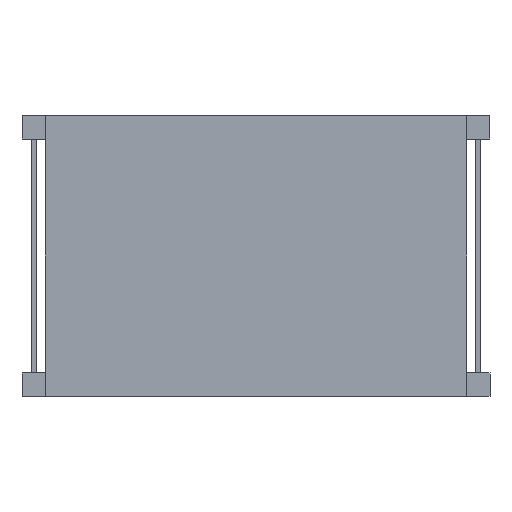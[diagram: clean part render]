
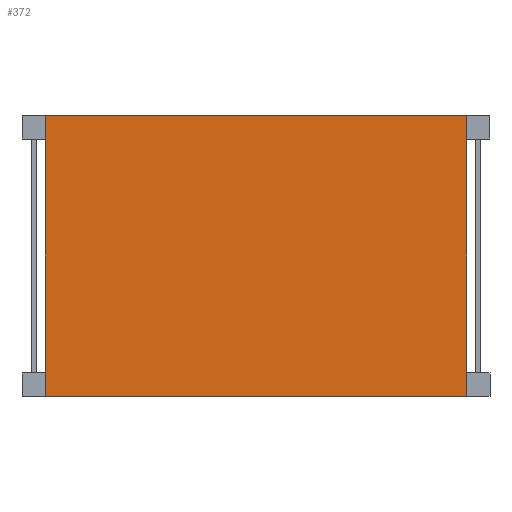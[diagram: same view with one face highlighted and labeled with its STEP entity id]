
A CAD part, front view. The second image highlights one B-rep face of the part: STEP entity #372.
In plain terms, the highlighted planar face has unit normal (0, -1, 0).
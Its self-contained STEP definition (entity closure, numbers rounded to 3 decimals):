
#156 = EDGE_CURVE('',#157,#159,#161,.T.);
#157 = VERTEX_POINT('',#158);
#158 = CARTESIAN_POINT('',(-450.,-10.,-300.));
#159 = VERTEX_POINT('',#160);
#160 = CARTESIAN_POINT('',(-450.,-10.,300.));
#161 = SURFACE_CURVE('',#162,(#166,#178),.PCURVE_S1.);
#162 = LINE('',#163,#164);
#163 = CARTESIAN_POINT('',(-450.,-10.,-300.));
#164 = VECTOR('',#165,1.);
#165 = DIRECTION('',(0.,0.,1.));
#166 = PCURVE('',#167,#172);
#167 = PLANE('',#168);
#168 = AXIS2_PLACEMENT_3D('',#169,#170,#171);
#169 = CARTESIAN_POINT('',(-450.,-10.,-300.));
#170 = DIRECTION('',(1.,0.,0.));
#171 = DIRECTION('',(0.,0.,1.));
#172 = DEFINITIONAL_REPRESENTATION('',(#173),#177);
#173 = LINE('',#174,#175);
#174 = CARTESIAN_POINT('',(0.,0.));
#175 = VECTOR('',#176,1.);
#176 = DIRECTION('',(1.,0.));
#177 = ( GEOMETRIC_REPRESENTATION_CONTEXT(2) PARAMETRIC_REPRESENTATION_CONTEXT() REPRESENTATION_CONTEXT('2D SPACE','') );
#178 = PCURVE('',#179,#184);
#179 = PLANE('',#180);
#180 = AXIS2_PLACEMENT_3D('',#181,#182,#183);
#181 = CARTESIAN_POINT('',(-450.,-10.,-300.));
#182 = DIRECTION('',(0.,1.,0.));
#183 = DIRECTION('',(0.,0.,1.));
#184 = DEFINITIONAL_REPRESENTATION('',(#185),#189);
#185 = LINE('',#186,#187);
#186 = CARTESIAN_POINT('',(0.,0.));
#187 = VECTOR('',#188,1.);
#188 = DIRECTION('',(1.,0.));
#189 = ( GEOMETRIC_REPRESENTATION_CONTEXT(2) PARAMETRIC_REPRESENTATION_CONTEXT() REPRESENTATION_CONTEXT('2D SPACE','') );
#207 = PLANE('',#208);
#208 = AXIS2_PLACEMENT_3D('',#209,#210,#211);
#209 = CARTESIAN_POINT('',(-450.,-10.,-300.));
#210 = DIRECTION('',(0.,0.,1.));
#211 = DIRECTION('',(1.,0.,0.));
#261 = PLANE('',#262);
#262 = AXIS2_PLACEMENT_3D('',#263,#264,#265);
#263 = CARTESIAN_POINT('',(-450.,-10.,300.));
#264 = DIRECTION('',(0.,0.,1.));
#265 = DIRECTION('',(1.,0.,0.));
#276 = EDGE_CURVE('',#277,#279,#281,.T.);
#277 = VERTEX_POINT('',#278);
#278 = CARTESIAN_POINT('',(450.,-10.,-300.));
#279 = VERTEX_POINT('',#280);
#280 = CARTESIAN_POINT('',(450.,-10.,300.));
#281 = SURFACE_CURVE('',#282,(#286,#298),.PCURVE_S1.);
#282 = LINE('',#283,#284);
#283 = CARTESIAN_POINT('',(450.,-10.,-300.));
#284 = VECTOR('',#285,1.);
#285 = DIRECTION('',(0.,0.,1.));
#286 = PCURVE('',#287,#292);
#287 = PLANE('',#288);
#288 = AXIS2_PLACEMENT_3D('',#289,#290,#291);
#289 = CARTESIAN_POINT('',(450.,-10.,-300.));
#290 = DIRECTION('',(1.,0.,0.));
#291 = DIRECTION('',(0.,0.,1.));
#292 = DEFINITIONAL_REPRESENTATION('',(#293),#297);
#293 = LINE('',#294,#295);
#294 = CARTESIAN_POINT('',(0.,0.));
#295 = VECTOR('',#296,1.);
#296 = DIRECTION('',(1.,0.));
#297 = ( GEOMETRIC_REPRESENTATION_CONTEXT(2) PARAMETRIC_REPRESENTATION_CONTEXT() REPRESENTATION_CONTEXT('2D SPACE','') );
#298 = PCURVE('',#179,#299);
#299 = DEFINITIONAL_REPRESENTATION('',(#300),#304);
#300 = LINE('',#301,#302);
#301 = CARTESIAN_POINT('',(0.,900.));
#302 = VECTOR('',#303,1.);
#303 = DIRECTION('',(1.,0.));
#304 = ( GEOMETRIC_REPRESENTATION_CONTEXT(2) PARAMETRIC_REPRESENTATION_CONTEXT() REPRESENTATION_CONTEXT('2D SPACE','') );
#372 = ADVANCED_FACE('',(#373),#179,.F.);
#373 = FACE_BOUND('',#374,.F.);
#374 = EDGE_LOOP('',(#375,#396,#397,#418));
#375 = ORIENTED_EDGE('',*,*,#376,.F.);
#376 = EDGE_CURVE('',#157,#277,#377,.T.);
#377 = SURFACE_CURVE('',#378,(#382,#389),.PCURVE_S1.);
#378 = LINE('',#379,#380);
#379 = CARTESIAN_POINT('',(-450.,-10.,-300.));
#380 = VECTOR('',#381,1.);
#381 = DIRECTION('',(1.,0.,0.));
#382 = PCURVE('',#179,#383);
#383 = DEFINITIONAL_REPRESENTATION('',(#384),#388);
#384 = LINE('',#385,#386);
#385 = CARTESIAN_POINT('',(0.,0.));
#386 = VECTOR('',#387,1.);
#387 = DIRECTION('',(0.,1.));
#388 = ( GEOMETRIC_REPRESENTATION_CONTEXT(2) PARAMETRIC_REPRESENTATION_CONTEXT() REPRESENTATION_CONTEXT('2D SPACE','') );
#389 = PCURVE('',#207,#390);
#390 = DEFINITIONAL_REPRESENTATION('',(#391),#395);
#391 = LINE('',#392,#393);
#392 = CARTESIAN_POINT('',(0.,0.));
#393 = VECTOR('',#394,1.);
#394 = DIRECTION('',(1.,0.));
#395 = ( GEOMETRIC_REPRESENTATION_CONTEXT(2) PARAMETRIC_REPRESENTATION_CONTEXT() REPRESENTATION_CONTEXT('2D SPACE','') );
#396 = ORIENTED_EDGE('',*,*,#156,.T.);
#397 = ORIENTED_EDGE('',*,*,#398,.T.);
#398 = EDGE_CURVE('',#159,#279,#399,.T.);
#399 = SURFACE_CURVE('',#400,(#404,#411),.PCURVE_S1.);
#400 = LINE('',#401,#402);
#401 = CARTESIAN_POINT('',(-450.,-10.,300.));
#402 = VECTOR('',#403,1.);
#403 = DIRECTION('',(1.,0.,0.));
#404 = PCURVE('',#179,#405);
#405 = DEFINITIONAL_REPRESENTATION('',(#406),#410);
#406 = LINE('',#407,#408);
#407 = CARTESIAN_POINT('',(600.,0.));
#408 = VECTOR('',#409,1.);
#409 = DIRECTION('',(0.,1.));
#410 = ( GEOMETRIC_REPRESENTATION_CONTEXT(2) PARAMETRIC_REPRESENTATION_CONTEXT() REPRESENTATION_CONTEXT('2D SPACE','') );
#411 = PCURVE('',#261,#412);
#412 = DEFINITIONAL_REPRESENTATION('',(#413),#417);
#413 = LINE('',#414,#415);
#414 = CARTESIAN_POINT('',(0.,0.));
#415 = VECTOR('',#416,1.);
#416 = DIRECTION('',(1.,0.));
#417 = ( GEOMETRIC_REPRESENTATION_CONTEXT(2) PARAMETRIC_REPRESENTATION_CONTEXT() REPRESENTATION_CONTEXT('2D SPACE','') );
#418 = ORIENTED_EDGE('',*,*,#276,.F.);
